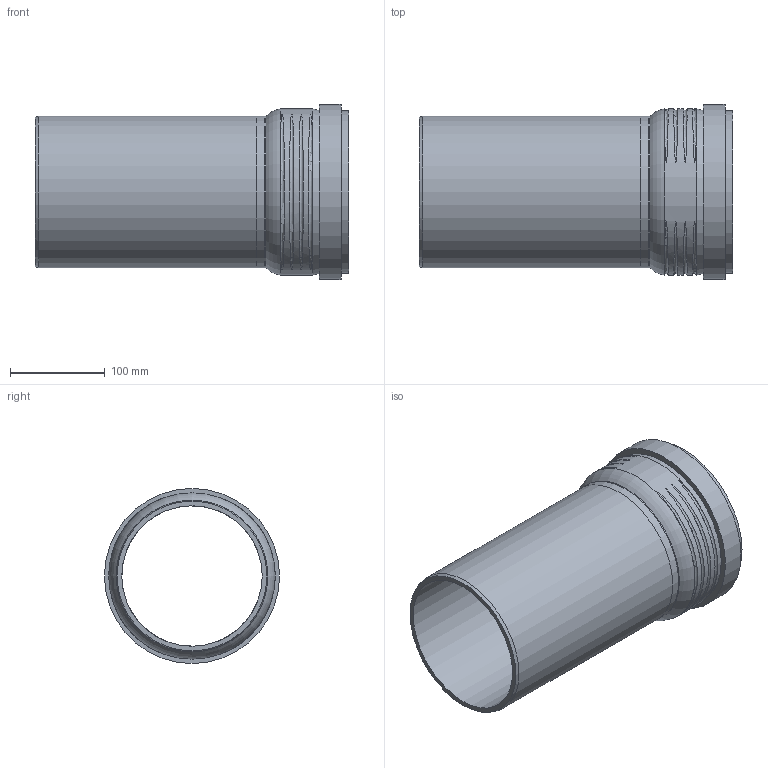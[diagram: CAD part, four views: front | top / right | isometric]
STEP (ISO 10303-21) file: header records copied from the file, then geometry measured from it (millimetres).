
FILE_DESCRIPTION(/* description */ (''),/* implementation_level */ '2;1');
FILE_NAME(/* name */ 'H:\Geberit-Teile\Export\PP_Rohr\stp\393701.stp',/* time_stamp */ '2017-02-13T16:10:21+01:00',/* author */ ('seihe2'),/* organization */ (''),/* preprocessor_version */ 'ST-DEVELOPER v15.2',/* originating_system */ 'Autodesk Inventor 2014',/* authorisation */ '');
FILE_SCHEMA (('AUTOMOTIVE_DESIGN { 1 0 10303 214 3 1 1 }'));
Length unit declared in the file: millimetre
Products named in the file (1): 393701
Bounding box: 330.6 x 184.86 x 184.86 mm (x, y, z)
Volume: 1039006.7 mm3; surface area: 367341.7 mm2
Topology: 2 solids, 2 shells, 38 faces, 79 edges, 54 vertices
Faces by surface type: torus 18, cylinder 10, plane 8, cone 2
Full cylindrical faces by diameter (mm): 148.25 x2, 160.25 x2, 161.4 x1, 164.8 x1, 172.2 x1, 174.6 x1, 175.6 x1, 184.86 x1
Entity records: 2318 total; most frequent: CARTESIAN_POINT 1552, DIRECTION 128, ORIENTED_EDGE 118, EDGE_LOOP 70, AXIS2_PLACEMENT_3D 64, EDGE_CURVE 59, VERTEX_POINT 53, STYLED_ITEM 40
